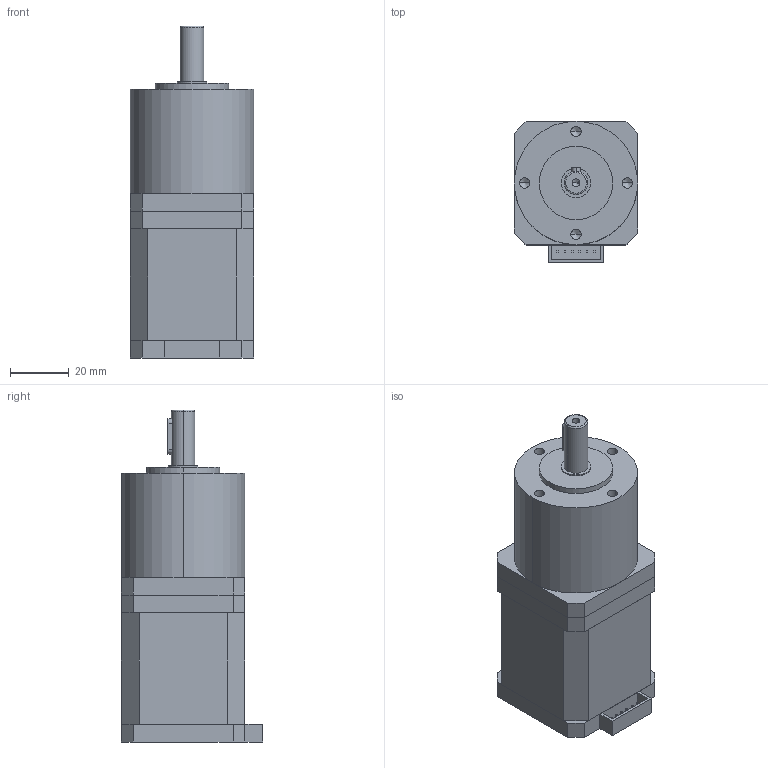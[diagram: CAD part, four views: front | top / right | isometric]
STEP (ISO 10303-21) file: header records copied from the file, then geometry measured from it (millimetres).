
FILE_DESCRIPTION (( 'STEP AP203' ), '1' );
FILE_NAME ('42PG005-D20-0450.STEP', '2019-09-21T08:34:01', ( 'China' ), ( 'Home' ), 'SwSTEP 2.0', 'SolidWorks 2016', '' );
FILE_SCHEMA (( 'CONFIG_CONTROL_DESIGN' ));
Length unit declared in the file: millimetre
Products named in the file (1): 42PG005-D20-0450
Bounding box: 42 x 48 x 113 mm (x, y, z)
Volume: 146715.4 mm3; surface area: 28838.5 mm2
Topology: 5 solids, 5 shells, 123 faces, 291 edges, 183 vertices
Faces by surface type: plane 90, cylinder 21, cone 10, bspline 2
Entity records: 3508 total; most frequent: CARTESIAN_POINT 624, DIRECTION 569, ORIENTED_EDGE 562, EDGE_CURVE 281, LINE 233, VECTOR 233, VERTEX_POINT 183, AXIS2_PLACEMENT_3D 168
